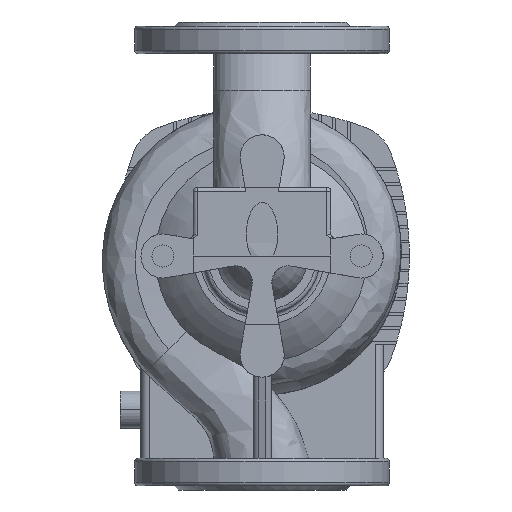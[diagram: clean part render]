
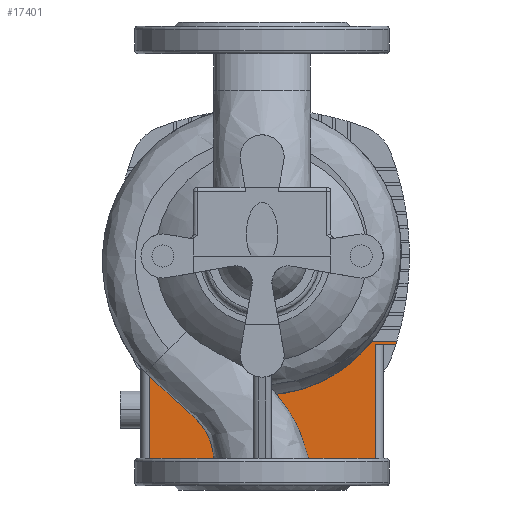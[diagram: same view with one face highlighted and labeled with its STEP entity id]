
A CAD part, front view. The second image highlights one B-rep face of the part: STEP entity #17401.
In plain terms, the highlighted planar face has unit normal (0, -1, 0) as drawn and (0, 0, 1) by its records, which use the part's own axes.
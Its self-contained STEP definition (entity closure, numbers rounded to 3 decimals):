
#53 = CARTESIAN_POINT ( 'NONE',  ( 82.1, 64., -113.5 ) ) ;
#1334 = VERTEX_POINT ( 'NONE', #8811 ) ;
#1583 = EDGE_CURVE ( 'NONE', #9026, #24566, #18740, .T. ) ;
#1739 = DIRECTION ( 'NONE',  ( 1., 0., 0. ) ) ;
#1842 = CARTESIAN_POINT ( 'NONE',  ( -97.799, 62., -113.5 ) ) ;
#2249 = ORIENTED_EDGE ( 'NONE', *, *, #17094, .T. ) ;
#2298 = EDGE_CURVE ( 'NONE', #5215, #1334, #21697, .T. ) ;
#2610 = ORIENTED_EDGE ( 'NONE', *, *, #23709, .F. ) ;
#2642 = VERTEX_POINT ( 'NONE', #21134 ) ;
#3057 = CIRCLE ( 'NONE', #8291, 213.5 ) ;
#3491 = CARTESIAN_POINT ( 'NONE',  ( -82.1, 156.227, -113.5 ) ) ;
#3724 = LINE ( 'NONE', #24461, #4835 ) ;
#4302 = CARTESIAN_POINT ( 'NONE',  ( 0., 0., -113.5 ) ) ;
#4624 = DIRECTION ( 'NONE',  ( 0., -1., 0. ) ) ;
#4640 = VERTEX_POINT ( 'NONE', #19989 ) ;
#4835 = VECTOR ( 'NONE', #9573, 1000. ) ;
#4878 = EDGE_CURVE ( 'NONE', #1334, #4640, #18864, .T. ) ;
#5215 = VERTEX_POINT ( 'NONE', #1842 ) ;
#5483 = AXIS2_PLACEMENT_3D ( 'NONE', #9257, #15391, #13344 ) ;
#6209 = EDGE_CURVE ( 'NONE', #26143, #5215, #3057, .T. ) ;
#6332 = VECTOR ( 'NONE', #21557, 1000. ) ;
#6337 = EDGE_LOOP ( 'NONE', ( #25738, #9332, #7024, #19622, #2610, #8894, #12870, #14794, #2249, #22963 ) ) ;
#6486 = DIRECTION ( 'NONE',  ( 0., 0., -1. ) ) ;
#7024 = ORIENTED_EDGE ( 'NONE', *, *, #23997, .T. ) ;
#7344 = CARTESIAN_POINT ( 'NONE',  ( -106.5, 0., -113.5 ) ) ;
#7520 = EDGE_CURVE ( 'NONE', #9026, #2642, #3724, .T. ) ;
#8275 = VECTOR ( 'NONE', #14518, 1000. ) ;
#8291 = AXIS2_PLACEMENT_3D ( 'NONE', #25574, #15201, #23519 ) ;
#8516 = CIRCLE ( 'NONE', #5483, 501. ) ;
#8811 = CARTESIAN_POINT ( 'NONE',  ( -65.926, 62., -113.5 ) ) ;
#8894 = ORIENTED_EDGE ( 'NONE', *, *, #6209, .T. ) ;
#9026 = VERTEX_POINT ( 'NONE', #53 ) ;
#9217 = DIRECTION ( 'NONE',  ( 0., -1., 0. ) ) ;
#9257 = CARTESIAN_POINT ( 'NONE',  ( 0., -338., -113.5 ) ) ;
#9332 = ORIENTED_EDGE ( 'NONE', *, *, #1583, .T. ) ;
#9573 = DIRECTION ( 'NONE',  ( 1., 0., 0. ) ) ;
#10777 = AXIS2_PLACEMENT_3D ( 'NONE', #7344, #24257, #11424 ) ;
#10943 = VERTEX_POINT ( 'NONE', #21003 ) ;
#11318 = CARTESIAN_POINT ( 'NONE',  ( -107., 62., -113.5 ) ) ;
#11424 = DIRECTION ( 'NONE',  ( 1., 0., 0. ) ) ;
#12109 = AXIS2_PLACEMENT_3D ( 'NONE', #21655, #25755, #4624 ) ;
#12413 = LINE ( 'NONE', #16637, #18151 ) ;
#12870 = ORIENTED_EDGE ( 'NONE', *, *, #2298, .T. ) ;
#13333 = PLANE ( 'NONE',  #12109 ) ;
#13344 = DIRECTION ( 'NONE',  ( 0., -1., 0. ) ) ;
#13470 = CARTESIAN_POINT ( 'NONE',  ( 97.799, 62., -113.5 ) ) ;
#14518 = DIRECTION ( 'NONE',  ( 0., 1., 0. ) ) ;
#14591 = VECTOR ( 'NONE', #9217, 1000. ) ;
#14794 = ORIENTED_EDGE ( 'NONE', *, *, #4878, .T. ) ;
#15201 = DIRECTION ( 'NONE',  ( 0., 0., 1. ) ) ;
#15331 = VECTOR ( 'NONE', #19630, 1000. ) ;
#15391 = DIRECTION ( 'NONE',  ( 0., 0., 1. ) ) ;
#16637 = CARTESIAN_POINT ( 'NONE',  ( -107., 64., -113.5 ) ) ;
#17094 = EDGE_CURVE ( 'NONE', #4640, #17638, #25782, .T. ) ;
#17118 = AXIS2_PLACEMENT_3D ( 'NONE', #4302, #6486, #1739 ) ;
#17272 = LINE ( 'NONE', #25603, #14591 ) ;
#17401 = ADVANCED_FACE ( 'NONE', ( #25629 ), #13333, .T. ) ;
#17638 = VERTEX_POINT ( 'NONE', #13470 ) ;
#18151 = VECTOR ( 'NONE', #18688, 1000. ) ;
#18688 = DIRECTION ( 'NONE',  ( 1., 0., 0. ) ) ;
#18740 = LINE ( 'NONE', #20248, #8275 ) ;
#18864 = CIRCLE ( 'NONE', #17118, 90.5 ) ;
#19587 = VERTEX_POINT ( 'NONE', #3491 ) ;
#19622 = ORIENTED_EDGE ( 'NONE', *, *, #21840, .T. ) ;
#19630 = DIRECTION ( 'NONE',  ( 1., 0., 0. ) ) ;
#19989 = CARTESIAN_POINT ( 'NONE',  ( 65.926, 62., -113.5 ) ) ;
#20248 = CARTESIAN_POINT ( 'NONE',  ( 82.1, 107., -113.5 ) ) ;
#20403 = EDGE_CURVE ( 'NONE', #17638, #2642, #23839, .T. ) ;
#21003 = CARTESIAN_POINT ( 'NONE',  ( -82.1, 64., -113.5 ) ) ;
#21134 = CARTESIAN_POINT ( 'NONE',  ( 97.182, 64., -113.5 ) ) ;
#21557 = DIRECTION ( 'NONE',  ( 1., 0., 0. ) ) ;
#21655 = CARTESIAN_POINT ( 'NONE',  ( 51.5, 107., -113.5 ) ) ;
#21697 = LINE ( 'NONE', #25931, #6332 ) ;
#21840 = EDGE_CURVE ( 'NONE', #19587, #10943, #17272, .T. ) ;
#22877 = CARTESIAN_POINT ( 'NONE',  ( -97.182, 64., -113.5 ) ) ;
#22963 = ORIENTED_EDGE ( 'NONE', *, *, #20403, .T. ) ;
#23519 = DIRECTION ( 'NONE',  ( 1., 0., 0. ) ) ;
#23709 = EDGE_CURVE ( 'NONE', #26143, #10943, #12413, .T. ) ;
#23839 = CIRCLE ( 'NONE', #10777, 213.5 ) ;
#23997 = EDGE_CURVE ( 'NONE', #24566, #19587, #8516, .T. ) ;
#24257 = DIRECTION ( 'NONE',  ( 0., 0., 1. ) ) ;
#24461 = CARTESIAN_POINT ( 'NONE',  ( -107., 64., -113.5 ) ) ;
#24566 = VERTEX_POINT ( 'NONE', #26496 ) ;
#25574 = CARTESIAN_POINT ( 'NONE',  ( 106.5, 0., -113.5 ) ) ;
#25603 = CARTESIAN_POINT ( 'NONE',  ( -82.1, 107., -113.5 ) ) ;
#25629 = FACE_OUTER_BOUND ( 'NONE', #6337, .T. ) ;
#25738 = ORIENTED_EDGE ( 'NONE', *, *, #7520, .F. ) ;
#25755 = DIRECTION ( 'NONE',  ( 0., 0., 1. ) ) ;
#25782 = LINE ( 'NONE', #11318, #15331 ) ;
#25931 = CARTESIAN_POINT ( 'NONE',  ( -107., 62., -113.5 ) ) ;
#26143 = VERTEX_POINT ( 'NONE', #22877 ) ;
#26496 = CARTESIAN_POINT ( 'NONE',  ( 82.1, 156.227, -113.5 ) ) ;
